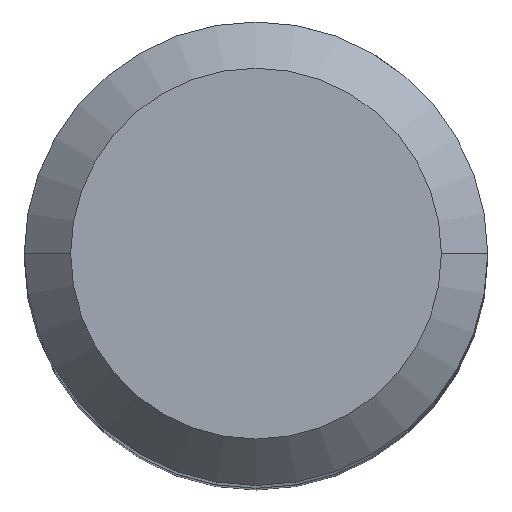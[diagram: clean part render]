
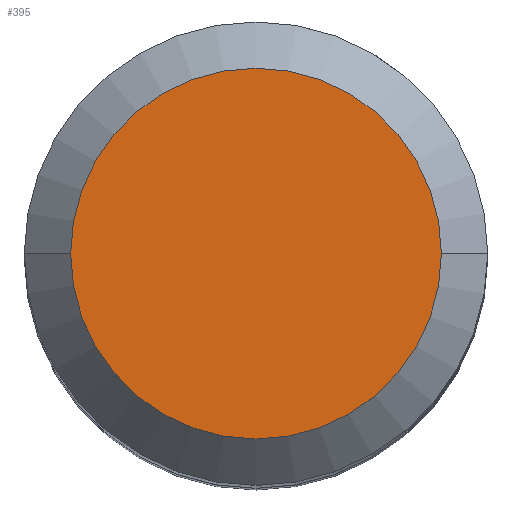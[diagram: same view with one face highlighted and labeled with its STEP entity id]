
A CAD part, top view. The second image highlights one B-rep face of the part: STEP entity #395.
In plain terms, the highlighted planar face has unit normal (0, 0, 1).
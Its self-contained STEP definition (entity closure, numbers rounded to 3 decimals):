
#33 = FACE_OUTER_BOUND ( 'NONE', #333, .T. ) ;
#53 = EDGE_CURVE ( 'NONE', #522, #597, #315, .T. ) ;
#80 = PLANE ( 'NONE',  #265 ) ;
#181 = CARTESIAN_POINT ( 'NONE',  ( 0., 6.4, 0. ) ) ;
#198 = CARTESIAN_POINT ( 'NONE',  ( 0., 0., 0. ) ) ;
#230 = DIRECTION ( 'NONE',  ( 0., 0., -1. ) ) ;
#237 = ORIENTED_EDGE ( 'NONE', *, *, #345, .F. ) ;
#246 = CARTESIAN_POINT ( 'NONE',  ( 6.4, 0., 0. ) ) ;
#265 = AXIS2_PLACEMENT_3D ( 'NONE', #181, #443, #379 ) ;
#291 = ORIENTED_EDGE ( 'NONE', *, *, #53, .F. ) ;
#298 = AXIS2_PLACEMENT_3D ( 'NONE', #198, #343, #552 ) ;
#315 = CIRCLE ( 'NONE', #316, 6.4 ) ;
#316 = AXIS2_PLACEMENT_3D ( 'NONE', #414, #230, #571 ) ;
#333 = EDGE_LOOP ( 'NONE', ( #237, #291 ) ) ;
#343 = DIRECTION ( 'NONE',  ( 0., 0., -1. ) ) ;
#345 = EDGE_CURVE ( 'NONE', #597, #522, #583, .T. ) ;
#379 = DIRECTION ( 'NONE',  ( 1., 0., 0. ) ) ;
#395 = ADVANCED_FACE ( 'NONE', ( #33 ), #80, .T. ) ;
#414 = CARTESIAN_POINT ( 'NONE',  ( 0., 0., 0. ) ) ;
#443 = DIRECTION ( 'NONE',  ( 0., 0., 1. ) ) ;
#464 = CARTESIAN_POINT ( 'NONE',  ( -6.4, 0., 0. ) ) ;
#522 = VERTEX_POINT ( 'NONE', #246 ) ;
#552 = DIRECTION ( 'NONE',  ( -1., 0., 0. ) ) ;
#571 = DIRECTION ( 'NONE',  ( -1., 0., 0. ) ) ;
#583 = CIRCLE ( 'NONE', #298, 6.4 ) ;
#597 = VERTEX_POINT ( 'NONE', #464 ) ;
